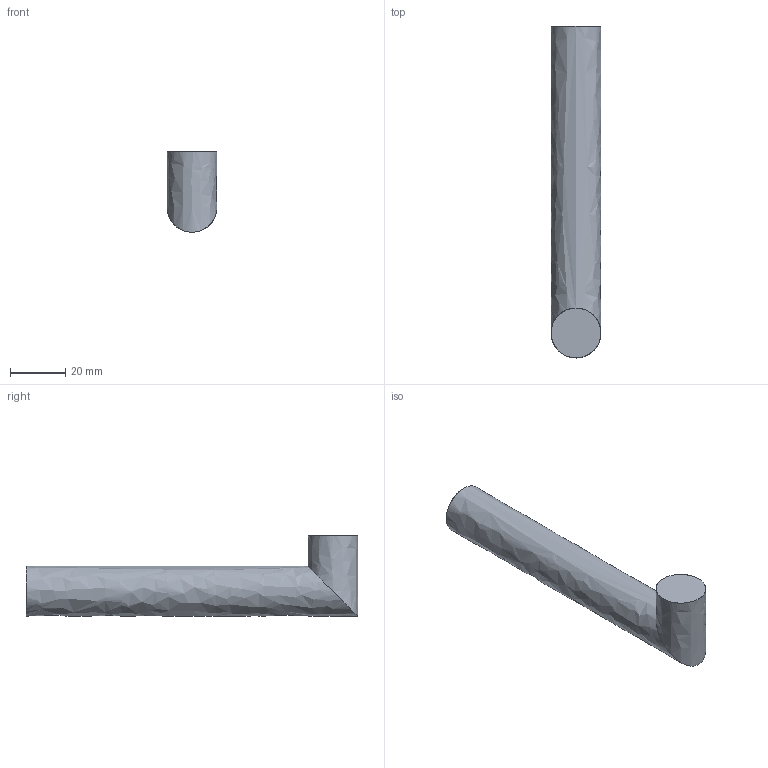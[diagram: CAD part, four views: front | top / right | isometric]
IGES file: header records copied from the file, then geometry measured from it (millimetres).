
Global section: file name: /Users/f/Desktop/II/AM234.igs; native system: Rhinoceros ( Jul 22 2010 ); preprocessor: Trout Lake IGES 012 Jul 22 2010; date: 100802.144542; units: millimetre
Bounding box: 18 x 120 x 29 mm (x, y, z)
Surface area: 7919.7 mm2 (no closed solid volume)
Topology: 0 solids, 0 shells, 4 faces, 96 edges, 95 vertices
Faces by surface type: bspline 4
